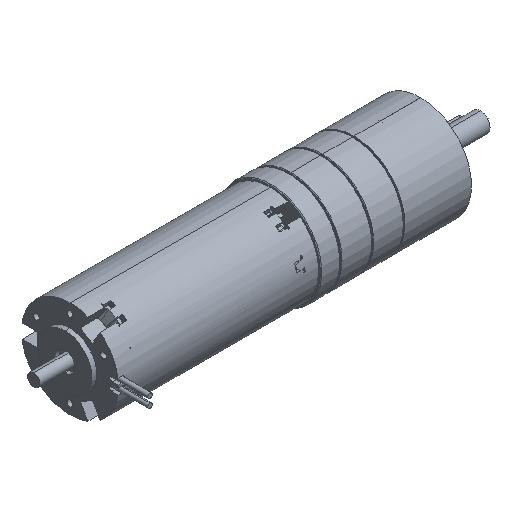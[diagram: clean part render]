
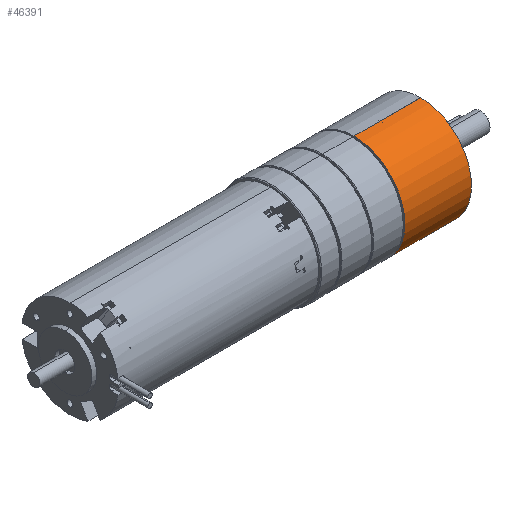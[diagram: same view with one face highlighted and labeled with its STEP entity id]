
A CAD part, isometric view. The second image highlights one B-rep face of the part: STEP entity #46391.
In plain terms, the highlighted cylindrical face has radius 21 mm (diameter 42 mm), a partial arc.
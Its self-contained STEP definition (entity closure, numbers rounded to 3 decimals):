
#49 = DIRECTION ( 'NONE',  ( 0., 0., -1. ) ) ;
#265 = CIRCLE ( 'NONE', #45167, 21. ) ;
#454 = VECTOR ( 'NONE', #36350, 1000. ) ;
#6563 = CYLINDRICAL_SURFACE ( 'NONE', #21323, 21. ) ;
#7442 = CARTESIAN_POINT ( 'NONE',  ( -3.475, 0., -21. ) ) ;
#8007 = ORIENTED_EDGE ( 'NONE', *, *, #39910, .T. ) ;
#11662 = CARTESIAN_POINT ( 'NONE',  ( -2., 0., -21. ) ) ;
#12859 = AXIS2_PLACEMENT_3D ( 'NONE', #40673, #19091, #44247 ) ;
#14850 = CIRCLE ( 'NONE', #12859, 21. ) ;
#17903 = ORIENTED_EDGE ( 'NONE', *, *, #39840, .T. ) ;
#18778 = CARTESIAN_POINT ( 'NONE',  ( -2., 0., 0. ) ) ;
#19091 = DIRECTION ( 'NONE',  ( -1., 0., 0. ) ) ;
#21323 = AXIS2_PLACEMENT_3D ( 'NONE', #32228, #21592, #49 ) ;
#21592 = DIRECTION ( 'NONE',  ( 1., 0., 0. ) ) ;
#22400 = DIRECTION ( 'NONE',  ( 0., 0., -1. ) ) ;
#22592 = EDGE_CURVE ( 'NONE', #41092, #45549, #38748, .T. ) ;
#25489 = ORIENTED_EDGE ( 'NONE', *, *, #22592, .T. ) ;
#25803 = FACE_OUTER_BOUND ( 'NONE', #41166, .T. ) ;
#28090 = LINE ( 'NONE', #46233, #38779 ) ;
#30550 = CARTESIAN_POINT ( 'NONE',  ( 25.5, 0., 21. ) ) ;
#31998 = DIRECTION ( 'NONE',  ( 1., 0., 0. ) ) ;
#32228 = CARTESIAN_POINT ( 'NONE',  ( -3.475, 0., 0. ) ) ;
#34316 = ORIENTED_EDGE ( 'NONE', *, *, #34728, .F. ) ;
#34728 = EDGE_CURVE ( 'NONE', #40842, #40590, #28090, .T. ) ;
#34992 = CARTESIAN_POINT ( 'NONE',  ( 25.5, 0., -21. ) ) ;
#36063 = CARTESIAN_POINT ( 'NONE',  ( -2., 0., 21. ) ) ;
#36350 = DIRECTION ( 'NONE',  ( 1., 0., 0. ) ) ;
#38748 = LINE ( 'NONE', #7442, #454 ) ;
#38779 = VECTOR ( 'NONE', #31998, 1000. ) ;
#39840 = EDGE_CURVE ( 'NONE', #40842, #41092, #265, .T. ) ;
#39910 = EDGE_CURVE ( 'NONE', #45549, #40590, #14850, .T. ) ;
#40590 = VERTEX_POINT ( 'NONE', #30550 ) ;
#40673 = CARTESIAN_POINT ( 'NONE',  ( 25.5, 0., 0. ) ) ;
#40842 = VERTEX_POINT ( 'NONE', #36063 ) ;
#41092 = VERTEX_POINT ( 'NONE', #11662 ) ;
#41166 = EDGE_LOOP ( 'NONE', ( #34316, #17903, #25489, #8007 ) ) ;
#43943 = DIRECTION ( 'NONE',  ( 1., 0., 0. ) ) ;
#44247 = DIRECTION ( 'NONE',  ( 0., 0., -1. ) ) ;
#45167 = AXIS2_PLACEMENT_3D ( 'NONE', #18778, #43943, #22400 ) ;
#45549 = VERTEX_POINT ( 'NONE', #34992 ) ;
#46233 = CARTESIAN_POINT ( 'NONE',  ( -3.475, 0., 21. ) ) ;
#46391 = ADVANCED_FACE ( 'NONE', ( #25803 ), #6563, .T. ) ;
